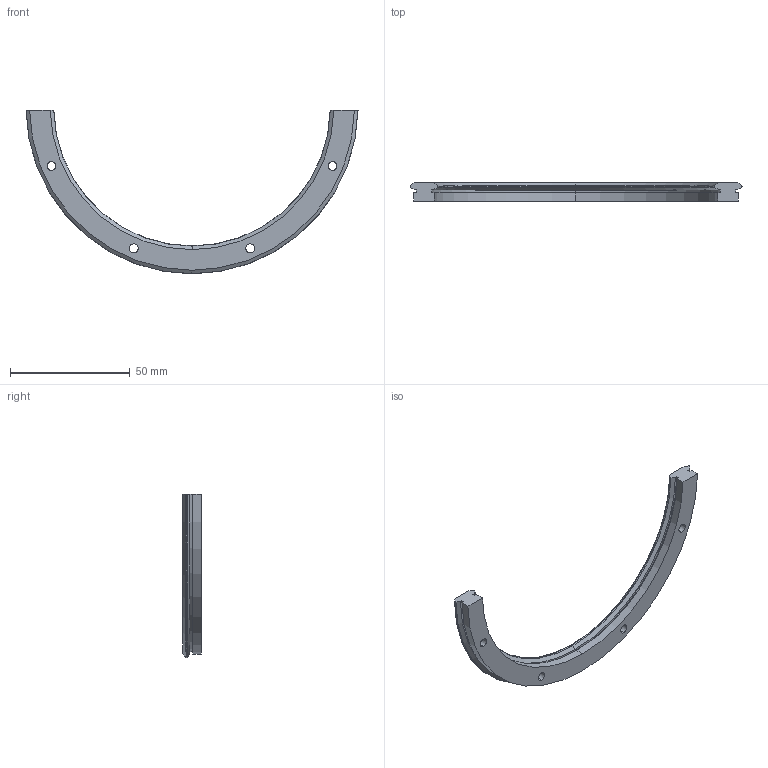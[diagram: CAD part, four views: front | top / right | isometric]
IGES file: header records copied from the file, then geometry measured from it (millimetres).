
Start section: 3D InterOp IGES (v. 2020 1.0.1), Spatial Corp. Copyright (c) 1999-2017.
Global section: file name: r12_127_r180.igs; native system: Spatial Corp.; preprocessor: 3D InterOp ACIS/IGES; author: TraceParts; organization: TraceParts S.A.; date: 20220624.022536; units: millimetre
Bounding box: 138.61 x 7.7 x 68.31 mm (x, y, z)
Surface area: 8295.2 mm2 (no closed solid volume)
Topology: 0 solids, 0 shells, 52 faces, 264 edges, 264 vertices
Faces by surface type: revolution 40, extrusion 12
